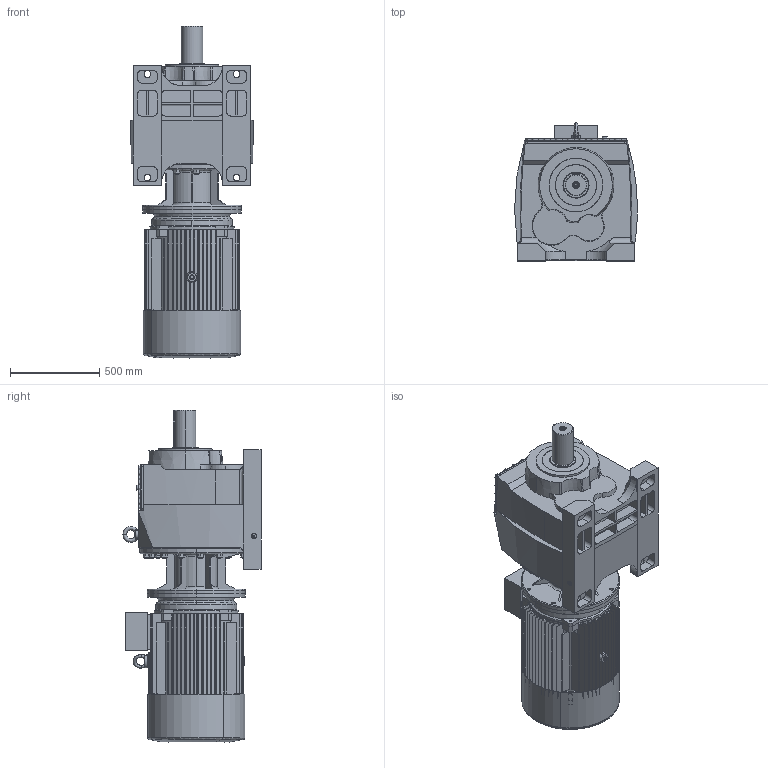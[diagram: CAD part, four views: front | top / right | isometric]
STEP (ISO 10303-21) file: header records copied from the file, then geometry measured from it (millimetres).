
FILE_DESCRIPTION (( 'STEP AP203' ), '1' );
FILE_NAME ('MV972-MV973-M3-280S-4.STEP', '2019-07-25T06:46:41', ( '' ), ( '' ), 'SwSTEP 2.0', 'SolidWorks 2012', '' );
FILE_SCHEMA (( 'CONFIG_CONTROL_DESIGN' ));
Products named in the file (13): Y2-280S-4,6 B5; MV972-MV973-M3-280S-4; Y2-280ｦｾﾂ-ｩﾃ_-ｼ+､; 280ﾁｧ+ﾀ_-ｼ+､; Y2-280S+ｷﾎｨB5_-ｼ+､; Y2-280-4-ｦﾈﾁﾂ-ｩﾃ_-ｼ+､; Y2-280-4.6.8ﾀiﾍ_-ｼ+､; MN_97_3_0_A-B28_B5_ML9A_0_0_0_0_0_0_0_0_0_0_0_0_M1; Y2-280S.M-4.6.8ﾍﾟ_-ｼ+､; Ã¦Íß¦ð-Ô©ÃY2-280-4_-¼+¤; 93280B5_Varsayìlan; ML9A_Varsayìlan; M973_Varsayìlan
Assembly tree (12 placements, depth 3):
  MV972-MV973-M3-280S-4
    MN_97_3_0_A-B28_B5_ML9A_0_0_0_0_0_0_0_0_0_0_0_0_M1
      M973_Varsayìlan
      93280B5_Varsayìlan
      ML9A_Varsayìlan
    Y2-280S-4,6 B5
      Ã¦Íß¦ð-Ô©ÃY2-280-4_-¼+¤
      Y2-280S.M-4.6.8ﾍﾟ_-ｼ+､
      Y2-280-4.6.8ﾀiﾍ_-ｼ+､
      Y2-280ｦｾﾂ-ｩﾃ_-ｼ+､
      Y2-280S+ｷﾎｨB5_-ｼ+､
      Y2-280-4-ｦﾈﾁﾂ-ｩﾃ_-ｼ+､
      280ﾁｧ+ﾀ_-ｼ+､
Bounding box: 688.77 x 774.59 x 1861.03 mm (x, y, z)
Volume: 261647938.7 mm3; surface area: 11189153.8 mm2
Topology: 10 solids, 10 shells, 2323 faces, 5725 edges, 3569 vertices
Faces by surface type: plane 1033, cone 695, cylinder 533, bspline 62
Entity records: 88625 total; most frequent: CARTESIAN_POINT 33730, ORIENTED_EDGE 11442, DIRECTION 10673, EDGE_CURVE 5721, AXIS2_PLACEMENT_3D 4007, VERTEX_POINT 3569, VECTOR 2659, LINE 2659
